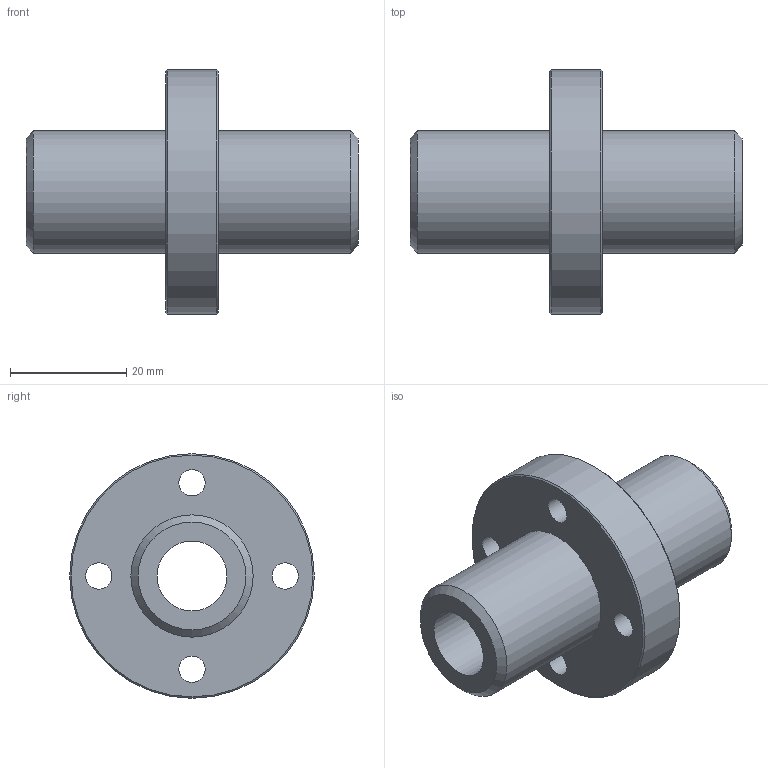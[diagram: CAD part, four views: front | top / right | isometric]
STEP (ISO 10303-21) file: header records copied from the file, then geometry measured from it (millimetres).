
FILE_DESCRIPTION(('STEP AP203'),'1');
FILE_NAME('//192.168.1.1/share/s-4 技術開発/s-4-4_CAD/s-4-4-3_見直し済み/PBC LINEAR修正済み/CFPJ/CFPJ_TOP/CFPJR/CFPJR12.step','2022-03-24T04:18:42',(' '),(' '),'Spatial InterOp 3D',' ',' ');
FILE_SCHEMA(('CONFIG_CONTROL_DESIGN'));
Length unit declared in the file: millimetre
Products named in the file (1): 1
Bounding box: 57 x 42 x 42 mm (x, y, z)
Volume: 21504 mm3; surface area: 9443.9 mm2
Topology: 1 solids, 1 shells, 24 faces, 51 edges, 35 vertices
Faces by surface type: cylinder 12, plane 8, cone 4
Full cylindrical faces by diameter (mm): 4.5 x4, 7.5 x4, 12 x1, 21 x2, 42 x1
Entity records: 588 total; most frequent: DIRECTION 106, CARTESIAN_POINT 81, EDGE_LOOP 56, ORIENTED_EDGE 56, AXIS2_PLACEMENT_3D 53, FACE_OUTER_BOUND 36, EDGE_CURVE 28, VERTEX_POINT 28
